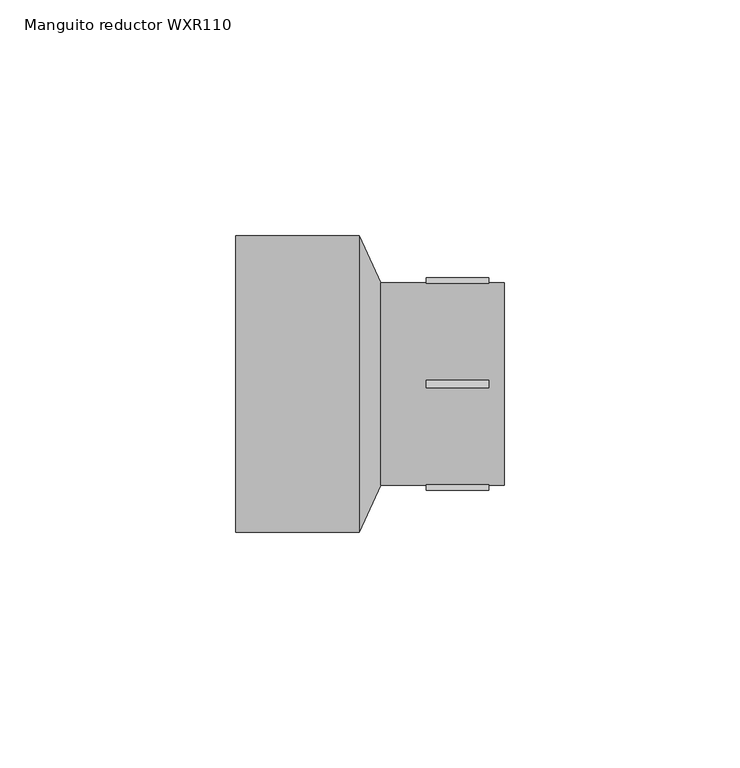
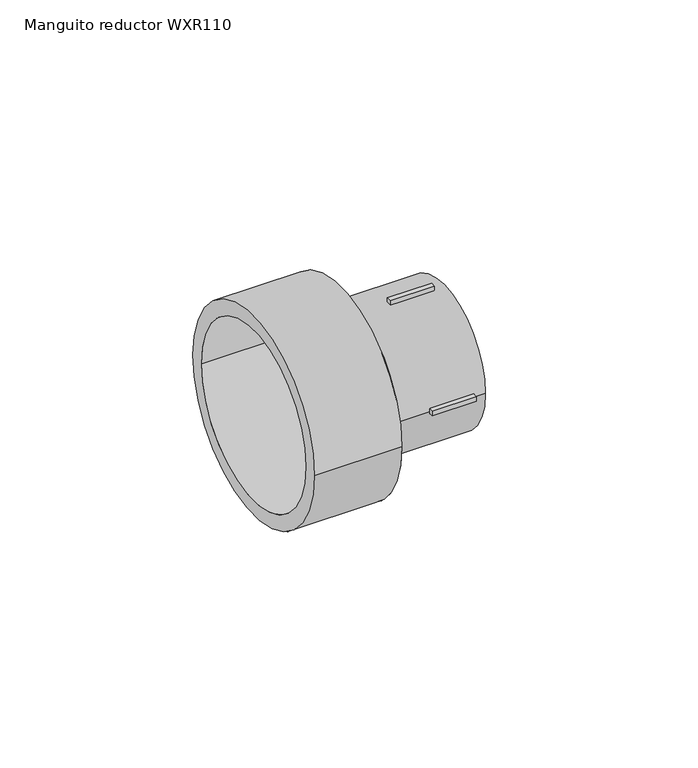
"""IFC4 building model written with IfcOpenShell, lengths in millimetres: pipe fitting geometry, EGB_VASEN_ PPR_Manguito reductor WXR110 : Manguito reductor WXR110."""

import ifcopenshell
import ifcopenshell.guid

model = None  # the IFC model being written
_history = None  # IfcOwnerHistory: only IFC2X3 demands one
_inside = {}  # id of a spatial element -> (the spatial element, [elements in it])
_under = {}  # id of a project, library or spatial element -> (it, [spatial elements below it])
_declared = {}  # id of a project -> (the project, [libraries it declares])
_typed = {}  # id of a type object -> (the type object, [elements of that type])
_made_of = {}  # id of a material, layer set ... -> (it, [elements and type objects made of it])


def new_model(schema):
    """Start an empty IFC model of exactly this schema.

    Asked for "IFC4X3", IfcOpenShell would pick the latest addendum, in which some entities
    have other attributes; the version numbers below select the first issue.
    IFC2X3 requires an IfcOwnerHistory on every rooted entity: one is made here for all.
    """
    global model, _history
    if schema == "IFC4X3":
        model = ifcopenshell.file(schema_version=(4, 3, 0, 0))
    else:
        model = ifcopenshell.file(schema=schema)
    _inside.clear()
    _under.clear()
    _declared.clear()
    _typed.clear()
    _made_of.clear()
    _history = None
    if model.schema == "IFC2X3":
        org = make("IfcOrganization", Name="unknown")
        user = make(
            "IfcPersonAndOrganization",
            ThePerson=make("IfcPerson", FamilyName="unknown"),
            TheOrganization=org,
        )
        app = make(
            "IfcApplication",
            ApplicationDeveloper=org,
            Version="unknown",
            ApplicationFullName="unknown",
            ApplicationIdentifier="unknown",
        )
        _history = make(
            "IfcOwnerHistory",
            OwningUser=user,
            OwningApplication=app,
            ChangeAction="ADDED",
            CreationDate=0,
        )
    return model


def make(cls, **values):
    """One entity of the class cls with the attributes given. An attribute that is None is left unset."""
    return model.create_entity(
        cls, **{name: value for name, value in values.items() if value is not None}
    )


def rooted(cls, **values):
    """An entity with a GlobalId (a new one), such as an element, a storey or a relation."""
    return make(cls, GlobalId=ifcopenshell.guid.new(), OwnerHistory=_history, **values)


def si_unit(unit_type, name, prefix=None):
    """IfcSIUnit, for example si_unit("LENGTHUNIT", "METRE", prefix="MILLI")."""
    return make("IfcSIUnit", UnitType=unit_type, Prefix=prefix, Name=name)


def assignment(units):
    """IfcUnitAssignment: the units of a project."""
    return None if units is None else make("IfcUnitAssignment", Units=units)


def point(xyz):
    """IfcCartesianPoint."""
    return None if xyz is None else make("IfcCartesianPoint", Coordinates=xyz)


def direction(xyz):
    """IfcDirection."""
    return None if xyz is None else make("IfcDirection", DirectionRatios=xyz)


def frame(location, z_axis=None, x_axis=None):
    """IfcAxis2Placement3D, a coordinate frame: its origin and axes. An axis left out is left unset."""
    return make(
        "IfcAxis2Placement3D",
        Location=point(location),
        Axis=direction(z_axis),
        RefDirection=direction(x_axis),
    )


def frame_2d(location, x_axis=None):
    """IfcAxis2Placement2D, a coordinate frame in the plane: its origin and x axis."""
    return make(
        "IfcAxis2Placement2D", Location=point(location), RefDirection=direction(x_axis)
    )


def origin():
    """The frame at (0, 0, 0) with its axes left unset."""
    return frame((0.0, 0.0, 0.0))


def origin_2d():
    """The frame at (0, 0) in the plane with its x axis left unset."""
    return frame_2d((0.0, 0.0))


def place(relative_to, where):
    """IfcLocalPlacement: puts the frame where relative to a parent placement (None: the world)."""
    return make(
        "IfcLocalPlacement", PlacementRelTo=relative_to, RelativePlacement=where
    )


def context(
    kind, dimensions, precision=None, world=None, true_north=None, identifier=None
):
    """IfcGeometricRepresentationContext, for example the 3D "Model" context."""
    return make(
        "IfcGeometricRepresentationContext",
        ContextIdentifier=identifier,
        ContextType=kind,
        CoordinateSpaceDimension=dimensions,
        Precision=precision,
        WorldCoordinateSystem=world,
        TrueNorth=true_north,
    )


def project(units=None, contexts=None):
    """IfcProject with its units and contexts."""
    return rooted(
        "IfcProject",
        Name="project",
        RepresentationContexts=contexts,
        UnitsInContext=assignment(units),
    )


def spatial(cls, under=None, at=None, **own):
    """A site, building, storey or space (cls), placed at a placement, below another one or the project."""
    s = rooted(cls, ObjectPlacement=at, **own)
    if under is not None:
        _under.setdefault(under.id(), (under, []))[1].append(s)
    return s


def polyline(points):
    """IfcPolyline through the points."""
    return make("IfcPolyline", Points=[point(p) for p in points])


def circle_curve(where, radius):
    """IfcCircle in the frame where."""
    return make("IfcCircle", Position=where, Radius=radius)


def trimmed(basis, trim1, trim2, sense, master):
    """IfcTrimmedCurve: the piece of a basis curve between two trims."""
    return make(
        "IfcTrimmedCurve",
        BasisCurve=basis,
        Trim1=trim1,
        Trim2=trim2,
        SenseAgreement=sense,
        MasterRepresentation=master,
    )


def segment(curve, same_sense, transition):
    """IfcCompositeCurveSegment."""
    return make(
        "IfcCompositeCurveSegment",
        Transition=transition,
        SameSense=same_sense,
        ParentCurve=curve,
    )


def composite_curve(segments, self_intersect=None):
    """IfcCompositeCurve: segments joined end to end."""
    return make("IfcCompositeCurve", Segments=segments, SelfIntersect=self_intersect)


def outline(outer, holes=None, kind="AREA"):
    """IfcArbitraryClosedProfileDef: a profile drawn as a closed curve; with holes, ...WithVoids."""
    if holes is None:
        return make("IfcArbitraryClosedProfileDef", ProfileType=kind, OuterCurve=outer)
    return make(
        "IfcArbitraryProfileDefWithVoids",
        ProfileType=kind,
        OuterCurve=outer,
        InnerCurves=holes,
    )


def extrude(swept, where, along, depth):
    """IfcExtrudedAreaSolid: the profile swept, set in the frame where, extruded along a direction by depth."""
    return make(
        "IfcExtrudedAreaSolid",
        SweptArea=swept,
        Position=where,
        ExtrudedDirection=direction(along),
        Depth=depth,
    )


def shape(context_of_items, identifier, shape_type, items):
    """IfcShapeRepresentation: the items that make up one representation, for example the "Body"."""
    return make(
        "IfcShapeRepresentation",
        ContextOfItems=context_of_items,
        RepresentationIdentifier=identifier,
        RepresentationType=shape_type,
        Items=items,
    )


def source(mapping_origin, context_of_items, identifier, shape_type, items):
    """IfcRepresentationMap: a shape defined once, which mapped items show again and again."""
    return make(
        "IfcRepresentationMap",
        MappingOrigin=mapping_origin,
        MappedRepresentation=shape(context_of_items, identifier, shape_type, items),
    )


def transform(
    local_origin,
    x_axis=None,
    y_axis=None,
    z_axis=None,
    scale=None,
    scale2=None,
    scale3=None,
    uniform=True,
):
    """IfcCartesianTransformationOperator3D, or its non-uniform kind. x_axis, y_axis, z_axis: its Axis1, 2, 3."""
    if uniform:
        return make(
            "IfcCartesianTransformationOperator3D",
            Axis1=direction(x_axis),
            Axis2=direction(y_axis),
            LocalOrigin=point(local_origin),
            Scale=scale,
            Axis3=direction(z_axis),
        )
    return make(
        "IfcCartesianTransformationOperator3DnonUniform",
        Axis1=direction(x_axis),
        Axis2=direction(y_axis),
        LocalOrigin=point(local_origin),
        Scale=scale,
        Axis3=direction(z_axis),
        Scale2=scale2,
        Scale3=scale3,
    )


def mapped(mapping_source, mapping_target):
    """IfcMappedItem: shows the shape of a source again, moved by a transform."""
    return make(
        "IfcMappedItem", MappingSource=mapping_source, MappingTarget=mapping_target
    )


def made_of(thing, what):
    """Note that an element or type object is made of a material, layer set ...; save() writes the relation."""
    if what is not None:
        _made_of.setdefault(what.id(), (what, []))[1].append(thing)
    return thing


def element(
    cls,
    number,
    at=None,
    inside=None,
    cuts=None,
    type_object=None,
    material=None,
    context=None,
    identifier="Body",
    shape_type=None,
    held_by="IfcProductDefinitionShape",
    body=None,
    shapes=None,
    **own,
):
    """One element of the class cls, such as IfcWall. Its Tag is "e" and its number.

    at: its placement. inside: the storey or other place that contains it. cuts: it is an
    opening in that element (IfcRelVoidsElement). A single representation is given by context,
    identifier, shape_type and body (its items); several are given by shapes. held_by: the class
    of the entity that holds the representations. save() writes the other relations.
    """
    e = rooted(cls, Tag="e%d" % number, ObjectPlacement=at, **own)
    if body is not None:
        shapes = [shape(context, identifier, shape_type, body)]
    if shapes is not None:
        e.Representation = make(held_by, Representations=shapes)
    if inside is not None:
        _inside.setdefault(inside.id(), (inside, []))[1].append(e)
    if cuts is not None:
        rooted(
            "IfcRelVoidsElement", RelatingBuildingElement=cuts, RelatedOpeningElement=e
        )
    if type_object is not None:
        _typed.setdefault(type_object.id(), (type_object, []))[1].append(e)
    return made_of(e, material)


def aggregate(whole, parts):
    """IfcRelAggregates: a whole, such as a stair, and the parts it consists of."""
    return rooted("IfcRelAggregates", RelatingObject=whole, RelatedObjects=parts)


def save(model, path):
    """Write the relations noted so far, then the file.

    IfcRelAggregates (storeys below a building ...), IfcRelContainedInSpatialStructure (elements
    in a storey), IfcRelDefinesByType, IfcRelAssociatesMaterial and IfcRelDeclares: one each for
    every whole, place, type object, material and project.
    """
    for whole, parts in _under.values():
        aggregate(whole, parts)
    for where, things in _inside.values():
        rooted(
            "IfcRelContainedInSpatialStructure",
            RelatedElements=things,
            RelatingStructure=where,
        )
    for kind, things in _typed.values():
        rooted("IfcRelDefinesByType", RelatedObjects=things, RelatingType=kind)
    for what, things in _made_of.values():
        rooted("IfcRelAssociatesMaterial", RelatedObjects=things, RelatingMaterial=what)
    for by, libraries in _declared.values():
        rooted("IfcRelDeclares", RelatingContext=by, RelatedDefinitions=libraries)
    model.write(path)


def plane_surface(at):
    """IfcPlane: the flat surface through the origin of the frame at, square to its z axis."""
    return make("IfcPlane", Position=at)


def revolved_surface(curve, axis_point, axis_direction):
    """IfcSurfaceOfRevolution: the curve turned about the line through axis_point along axis_direction."""
    return make(
        "IfcSurfaceOfRevolution",
        SweptCurve=make("IfcArbitraryOpenProfileDef", ProfileType="CURVE", Curve=curve),
        AxisPosition=make("IfcAxis1Placement", Location=point(axis_point), Axis=direction(axis_direction)),
    )


def advanced_brep(points, edges, surfaces, faces):
    """IfcAdvancedBrep: a solid bounded by faces that lie on surfaces and meet in shared edges.

    An edge is (start, end): straight between two places in points (the first is 0);
    or (start, end, curve); or (start, end, curve, False) where it runs against its curve.
    A face is (place in surfaces, loops), or (place, loops, False) where it looks against
    its surface's normal. A loop lists edges by number (the first is 1), with a minus sign
    where the edge is run from its end to its start. The first loop is the outer one.
    """
    corners = [point(p) for p in points]
    vertices = [make("IfcVertexPoint", VertexGeometry=c) for c in corners]
    made = []
    for start, end, *more in edges:
        made.append(
            make(
                "IfcEdgeCurve",
                EdgeStart=vertices[start],
                EdgeEnd=vertices[end],
                EdgeGeometry=more[0] if more else make("IfcPolyline", Points=[corners[start], corners[end]]),
                SameSense=more[1] if len(more) > 1 else True,
            )
        )
    hull = []
    for where, loops, *sense in faces:
        bounds = []
        for j, loop in enumerate(loops):
            ring = [make("IfcOrientedEdge", EdgeElement=made[abs(k) - 1], Orientation=k > 0) for k in loop]
            bounds.append(
                make(
                    "IfcFaceOuterBound" if j == 0 else "IfcFaceBound",
                    Bound=make("IfcEdgeLoop", EdgeList=ring),
                    Orientation=True,
                )
            )
        hull.append(make("IfcAdvancedFace", Bounds=bounds, FaceSurface=surfaces[where], SameSense=sense[0] if sense else True))
    return make("IfcAdvancedBrep", Outer=make("IfcClosedShell", CfsFaces=hull))


def manguito_reductor_wxr110_c34cf55d(model_context):
    return source(origin(), model_context, "Body", "SolidModel", [
        extrude(outline(polyline([(12.0, -0.75), (12.0, 0.75), (25.2, 0.75), (25.2, -0.75), (12.0, -0.75)])), frame((0.0, 0.0, 20.5), z_axis=(0.0, 0.0, 1.0), x_axis=(1.0, 0.0, 0.0)), (0.0, 0.0, 1.0), 2.0),
        extrude(outline(polyline([(12.0, -0.75), (12.0, 0.75), (25.2, 0.75), (25.2, -0.75), (12.0, -0.75)])), frame((0.0, 0.0, -22.5), z_axis=(0.0, 0.0, 1.0), x_axis=(1.0, 0.0, 0.0)), (0.0, 0.0, 1.0), 2.0),
        extrude(outline(polyline([(12.0, 20.5), (12.0, 22.5), (25.2, 22.5), (25.2, 20.5), (12.0, 20.5)])), frame((0.0, 0.0, -0.75), z_axis=(0.0, 0.0, 1.0), x_axis=(1.0, 0.0, 0.0)), (0.0, 0.0, 1.0), 1.5),
        extrude(outline(polyline([(12.0, -22.5), (12.0, -20.5), (25.2, -20.5), (25.2, -22.5), (12.0, -22.5)])), frame((0.0, 0.0, -0.75), z_axis=(0.0, 0.0, 1.0), x_axis=(1.0, 0.0, 0.0)), (0.0, 0.0, 1.0), 1.5),
        extrude(outline(composite_curve([segment(trimmed(circle_curve(origin_2d(), 21.5), [point((-21.5, 0.0))], [point((21.5, 0.0))], False, "CARTESIAN"), True, "CONTINUOUS"), segment(trimmed(circle_curve(origin_2d(), 21.5), [point((21.5, 0.0))], [point((-21.5, 0.0))], False, "CARTESIAN"), True, "CONTINUOUS")], self_intersect=False), holes=[composite_curve([segment(trimmed(circle_curve(origin_2d(), 16.0), [point((-16.0, 0.0))], [point((16.0, 0.0))], True, "CARTESIAN"), True, "CONTINUOUS"), segment(trimmed(circle_curve(origin_2d(), 16.0), [point((16.0, 0.0))], [point((-16.0, 0.0))], True, "CARTESIAN"), True, "CONTINUOUS")], self_intersect=False)]), frame((2.28, 0.0, 0.0), z_axis=(1.0, 0.0, 0.0), x_axis=(0.0, 1.0, 0.0)), (0.0, 0.0, 1.0), 26.22),
        extrude(outline(composite_curve([segment(trimmed(circle_curve(origin_2d(), 31.5), [point((-31.5, 0.0))], [point((31.5, 0.0))], False, "CARTESIAN"), True, "CONTINUOUS"), segment(trimmed(circle_curve(origin_2d(), 31.5), [point((31.5, 0.0))], [point((-31.5, 0.0))], False, "CARTESIAN"), True, "CONTINUOUS")], self_intersect=False), holes=[composite_curve([segment(trimmed(circle_curve(origin_2d(), 27.0), [point((-27.0, 0.0))], [point((27.0, 0.0))], True, "CARTESIAN"), True, "CONTINUOUS"), segment(trimmed(circle_curve(origin_2d(), 27.0), [point((27.0, 0.0))], [point((-27.0, 0.0))], True, "CARTESIAN"), True, "CONTINUOUS")], self_intersect=False)]), frame((-28.5, 0.0, 0.0), z_axis=(1.0, 0.0, 0.0), x_axis=(0.0, 1.0, 0.0)), (0.0, 0.0, 1.0), 26.22),
        advanced_brep(
        [(2.28, -21.5, 0.0), (2.28, 21.5, 0.0), (-2.28, -31.5, 0.0), (-2.28, 31.5, 0.0)],
        [
            (0, 1, circle_curve(frame((2.28, 0.0, 0.0), z_axis=(1.0, 0.0, 0.0), x_axis=(0.0, -1.0, 0.0)), 21.5)),
            (1, 0, circle_curve(frame((2.28, 0.0, 0.0), z_axis=(1.0, 0.0, 0.0), x_axis=(0.0, 1.0, 0.0)), 21.5)),
            (2, 3, circle_curve(frame((-2.28, 0.0, 0.0), z_axis=(-1.0, 0.0, 0.0), x_axis=(0.0, 1.0, 0.0)), 31.5)),
            (3, 2, circle_curve(frame((-2.28, 0.0, 0.0), z_axis=(-1.0, 0.0, 0.0), x_axis=(0.0, -1.0, 0.0)), 31.5)),
            (3, 1),
            (0, 2),
        ],
        [
            plane_surface(frame((2.28, 0.0, 0.0), z_axis=(1.0, 0.0, 0.0), x_axis=(0.0, 0.0, -1.0))),
            plane_surface(frame((-2.28, 0.0, 0.0), z_axis=(-1.0, 0.0, 0.0), x_axis=(0.0, 0.0, -1.0))),
            revolved_surface(polyline([(2.2799999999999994, -21.5, 0.0), (-2.2799999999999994, -31.5, 0.0)]), (12.084, 0.0, 0.0), (-1.0, 0.0, 0.0)),
            revolved_surface(polyline([(2.2799999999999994, 21.5, 0.0), (-2.2799999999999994, 31.5, 0.0)]), (12.084, 0.0, 0.0), (-1.0, 0.0, 0.0)),
        ],
        [
            (0, [[1, 2]]),
            (1, [[3, 4]]),
            (2, [[-4, 5, -1, 6]]),
            (3, [[-3, -6, -2, -5]]),
        ],
    ),
    ])


if __name__ == "__main__":
    model = new_model("IFC4")
    model_context = context("Model", 3, world=origin())
    ifc_project = project(units=[si_unit("LENGTHUNIT", "METRE", prefix="MILLI")], contexts=[model_context])
    site = spatial("IfcSite", under=ifc_project)
    building = spatial("IfcBuilding", under=site)
    placement = place(None, origin())
    manguito_reductor_wxr110_shape = manguito_reductor_wxr110_c34cf55d(model_context)
    element("IfcPipeFitting", 1, ObjectType="EGB_VASEN_ PPR_Manguito reductor WXR110 : Manguito reductor WXR110", at=placement, inside=building, context=model_context, shape_type="MappedRepresentation", body=[
        mapped(manguito_reductor_wxr110_shape, transform((0.0, 0.0, 0.0), x_axis=(1.0, 0.0, 0.0), y_axis=(0.0, 1.0, 0.0), z_axis=(0.0, 0.0, 1.0))),
    ])
    save(model, "model.ifc")
